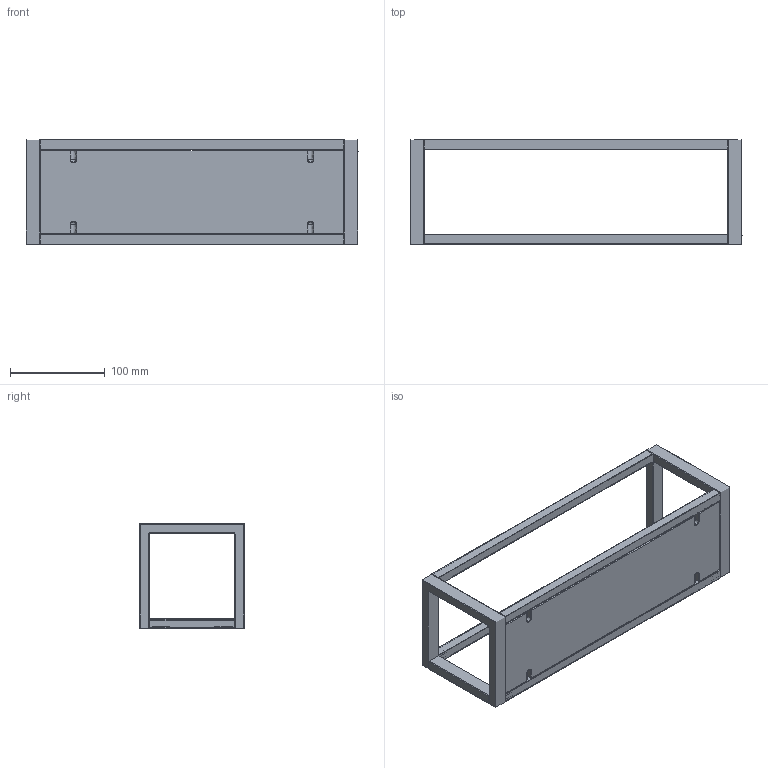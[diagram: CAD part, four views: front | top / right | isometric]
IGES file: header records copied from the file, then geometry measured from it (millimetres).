
Start section: SolidWorks IGES file using NURBS representation for surfaces
Global section: file name: G:\6- Varios\Dani-Olga\THE GRID\268##63VW.IGS; native system: SolidWorks 2016; preprocessor: SolidWorks 2016; author: buldan01; date: 190430.162151; units: millimetre
Bounding box: 350 x 110 x 110.15 mm (x, y, z)
Surface area: 205491.6 mm2 (no closed solid volume)
Topology: 0 solids, 0 shells, 666 faces, 6888 edges, 8486 vertices
Faces by surface type: bspline 666
